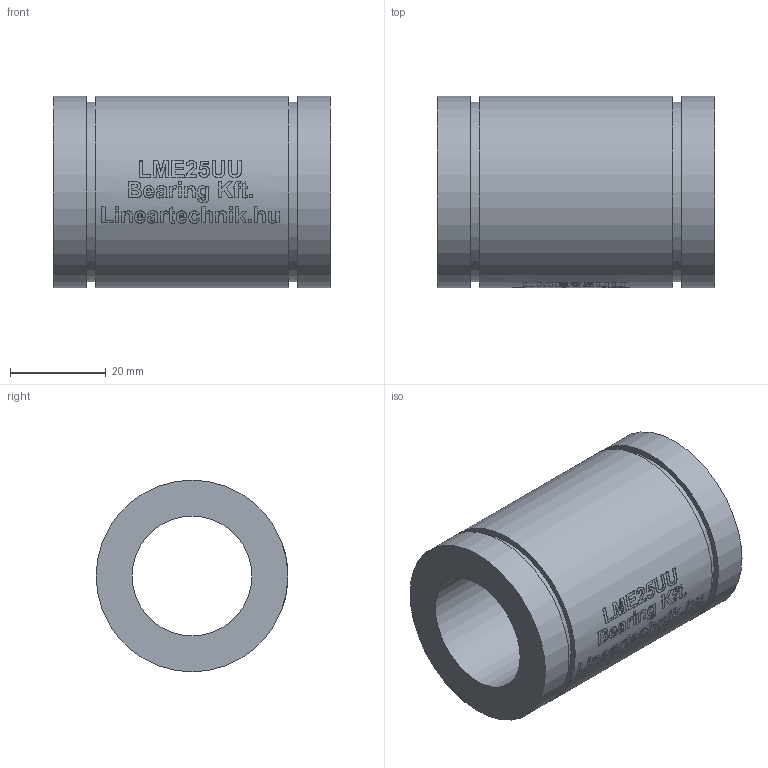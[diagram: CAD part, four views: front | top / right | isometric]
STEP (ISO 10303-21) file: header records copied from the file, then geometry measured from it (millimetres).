
FILE_DESCRIPTION(/* description */ (''),/* implementation_level */ '2;1');
FILE_NAME(/* name */ 'LME25UU',/* time_stamp */ '2019-05-17T10:33:17+02:00',/* author */ ('VĂ©gh MĂˇtĂ©'),/* organization */ ('Bearing Kft'),/* preprocessor_version */ 'ST-DEVELOPER v16.7',/* originating_system */ 'DEX',/* authorisation */ $);
FILE_SCHEMA (('AUTOMOTIVE_DESIGN {1 0 10303 214 3 1 1}'));
Length unit declared in the file: millimetre
Products named in the file (1): LME25UU
Bounding box: 58 x 40 x 40 mm (x, y, z)
Volume: 43839 mm3; surface area: 13999.5 mm2
Topology: 1 solids, 1 shells, 317 faces, 800 edges, 534 vertices
Faces by surface type: plane 169, bspline 97, cylinder 51
Full cylindrical faces by diameter (mm): 25 x1, 37.5 x2, 40 x3
Entity records: 18809 total; most frequent: CARTESIAN_POINT 11694, ORIENTED_EDGE 1582, DIRECTION 1187, EDGE_CURVE 791, VERTEX_POINT 532, LINE 441, VECTOR 441, EDGE_LOOP 375
